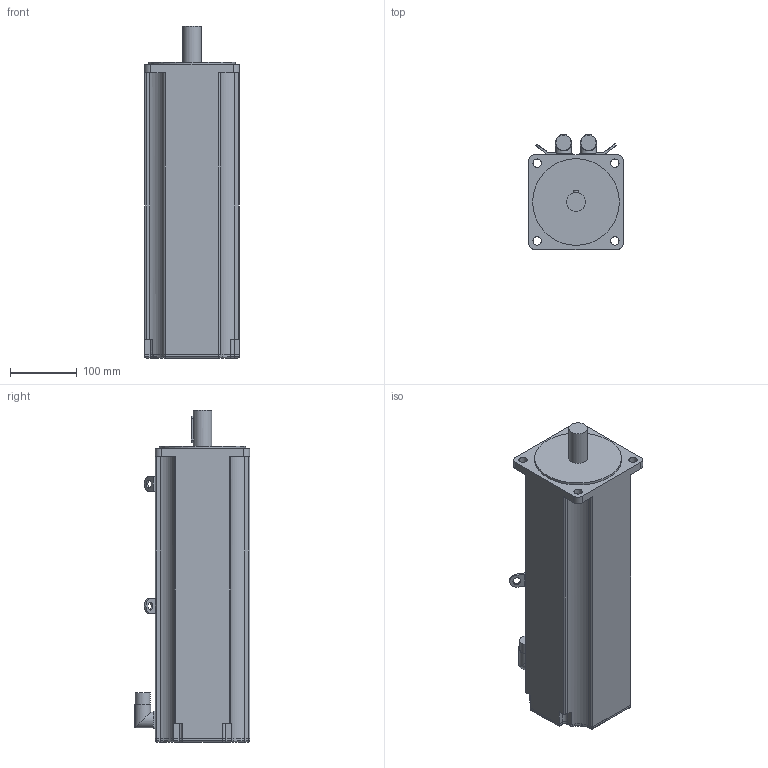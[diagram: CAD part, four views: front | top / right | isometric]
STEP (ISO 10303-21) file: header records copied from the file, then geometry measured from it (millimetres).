
FILE_DESCRIPTION(/* description */ (''),/* implementation_level */ '2;1');
FILE_NAME(/* name */ '\\Lafnas01\disegni\Archivi Lafert\3D\CAD 3D\MODELLI\Assiemi clienti\Serad\Modelli 3D Serad\B71Q\Resolver\Res With Brake\B7138Qxx6B052033.ipt.stp',/* time_stamp */ '2015-09-07T10:52:57+02:00',/* author */ ('Pastrello Ylenia'),/* organization */ (''),/* preprocessor_version */ 'ST-DEVELOPER v15.6',/* originating_system */ 'Autodesk Inventor 2015',/* authorisation */ '');
FILE_SCHEMA (('AUTOMOTIVE_DESIGN { 1 0 10303 214 3 1 1 }'));
Length unit declared in the file: millimetre
Products named in the file (1): B7138Qxx6B052033
Bounding box: 142 x 173.5 x 498 mm (x, y, z)
Volume: 7796330.8 mm3; surface area: 286409.4 mm2
Topology: 1 solids, 1 shells, 172 faces, 450 edges, 290 vertices
Faces by surface type: plane 86, cylinder 74, torus 8, sphere 4
Full cylindrical faces by diameter (mm): 12 x2, 12.5 x4, 22.7 x2, 24 x2, 28 x1, 130 x1
Entity records: 5354 total; most frequent: CARTESIAN_POINT 1031, DIRECTION 920, ORIENTED_EDGE 868, EDGE_CURVE 434, AXIS2_PLACEMENT_3D 323, VERTEX_POINT 286, LINE 274, VECTOR 274
